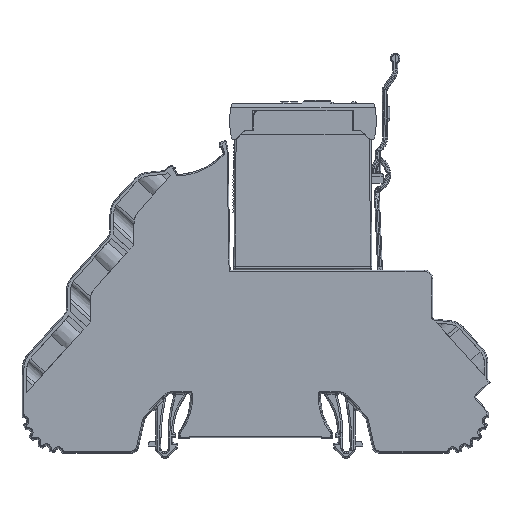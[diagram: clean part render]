
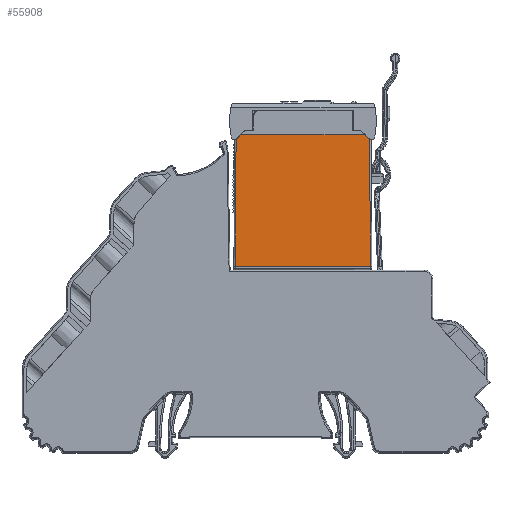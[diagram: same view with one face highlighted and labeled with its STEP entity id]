
A CAD part, left-side view. The second image highlights one B-rep face of the part: STEP entity #55908.
In plain terms, the highlighted planar face has unit normal (-1, 0, 0.006).
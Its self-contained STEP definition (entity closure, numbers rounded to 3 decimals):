
#1791 = EDGE_CURVE ( 'NONE', #119254, #127471, #106595, .T. ) ;
#3710 = CARTESIAN_POINT ( 'NONE',  ( -6.25, 2.803, 38.8 ) ) ;
#4144 = CARTESIAN_POINT ( 'NONE',  ( -6.09, 12.04, 65.295 ) ) ;
#5524 = VECTOR ( 'NONE', #78479, 1000. ) ;
#13148 = EDGE_CURVE ( 'NONE', #89399, #119254, #76153, .T. ) ;
#14494 = EDGE_CURVE ( 'NONE', #25927, #32740, #69327, .T. ) ;
#18274 = CARTESIAN_POINT ( 'NONE',  ( -6.09, -15.832, 65.295 ) ) ;
#22211 = CARTESIAN_POINT ( 'NONE',  ( -6.247, 12.197, 38.8 ) ) ;
#24183 = VECTOR ( 'NONE', #58210, 1000. ) ;
#24737 = VECTOR ( 'NONE', #59366, 1000. ) ;
#25753 = CARTESIAN_POINT ( 'NONE',  ( -6.085, -14.926, 66.2 ) ) ;
#25927 = VERTEX_POINT ( 'NONE', #85387 ) ;
#26107 = FACE_OUTER_BOUND ( 'NONE', #60720, .T. ) ;
#28147 = DIRECTION ( 'NONE',  ( -0.004, 0.707, -0.707 ) ) ;
#32740 = VERTEX_POINT ( 'NONE', #41662 ) ;
#33585 = CARTESIAN_POINT ( 'NONE',  ( -6.193, 12.145, 47.632 ) ) ;
#36079 = ORIENTED_EDGE ( 'NONE', *, *, #46095, .F. ) ;
#37993 = CARTESIAN_POINT ( 'NONE',  ( -6.247, 12.197, 38.8 ) ) ;
#40661 = CARTESIAN_POINT ( 'NONE',  ( -6.154, -1.896, 54.286 ) ) ;
#40972 = ORIENTED_EDGE ( 'NONE', *, *, #14494, .T. ) ;
#41662 = CARTESIAN_POINT ( 'NONE',  ( -6.09, 12.04, 65.295 ) ) ;
#46095 = EDGE_CURVE ( 'NONE', #25927, #118289, #123866, .T. ) ;
#47894 = CARTESIAN_POINT ( 'NONE',  ( -6.085, 11.135, 66.2 ) ) ;
#49819 = ORIENTED_EDGE ( 'NONE', *, *, #118629, .F. ) ;
#55908 = ADVANCED_FACE ( 'NONE', ( #26107 ), #70525, .F. ) ;
#57760 = AXIS2_PLACEMENT_3D ( 'NONE', #40661, #81971, #91234 ) ;
#58210 = DIRECTION ( 'NONE',  ( -0.006, -0.006, -1. ) ) ;
#59366 = DIRECTION ( 'NONE',  ( 0., -1., 0. ) ) ;
#60720 = EDGE_LOOP ( 'NONE', ( #71961, #36079, #40972, #49819, #107385, #100865 ) ) ;
#69327 = LINE ( 'NONE', #47894, #92971 ) ;
#70525 = PLANE ( 'NONE',  #57760 ) ;
#71961 = ORIENTED_EDGE ( 'NONE', *, *, #127607, .T. ) ;
#73093 = LINE ( 'NONE', #18274, #5524 ) ;
#73139 = CARTESIAN_POINT ( 'NONE',  ( -6.247, -15.993, 38.8 ) ) ;
#76153 = LINE ( 'NONE', #108505, #24183 ) ;
#78479 = DIRECTION ( 'NONE',  ( 0.004, 0.707, 0.707 ) ) ;
#81971 = DIRECTION ( 'NONE',  ( 1., 0., -0.006 ) ) ;
#83306 = CARTESIAN_POINT ( 'NONE',  ( -6.25, -6.591, 38.8 ) ) ;
#85387 = CARTESIAN_POINT ( 'NONE',  ( -6.085, 11.135, 66.2 ) ) ;
#89399 = VERTEX_POINT ( 'NONE', #95314 ) ;
#91234 = DIRECTION ( 'NONE',  ( -0.006, 0., -1. ) ) ;
#92971 = VECTOR ( 'NONE', #28147, 1000. ) ;
#95314 = CARTESIAN_POINT ( 'NONE',  ( -6.09, -15.832, 65.295 ) ) ;
#100865 = ORIENTED_EDGE ( 'NONE', *, *, #13148, .F. ) ;
#106595 = B_SPLINE_CURVE_WITH_KNOTS ( 'NONE', 3,
 ( #73139, #83306, #3710, #22211 ),
 .UNSPECIFIED., .F., .F.,
 ( 4, 4 ),
 ( 0., 1. ),
 .UNSPECIFIED. ) ;
#107385 = ORIENTED_EDGE ( 'NONE', *, *, #1791, .F. ) ;
#108505 = CARTESIAN_POINT ( 'NONE',  ( -6.09, -15.832, 65.295 ) ) ;
#111320 = B_SPLINE_CURVE_WITH_KNOTS ( 'NONE', 3,
 ( #124711, #33585, #115490, #4144 ),
 .UNSPECIFIED., .F., .F.,
 ( 4, 4 ),
 ( 0., 1. ),
 .UNSPECIFIED. ) ;
#115490 = CARTESIAN_POINT ( 'NONE',  ( -6.142, 12.093, 56.463 ) ) ;
#118289 = VERTEX_POINT ( 'NONE', #25753 ) ;
#118629 = EDGE_CURVE ( 'NONE', #127471, #32740, #111320, .T. ) ;
#119254 = VERTEX_POINT ( 'NONE', #125388 ) ;
#123866 = LINE ( 'NONE', #130239, #24737 ) ;
#124711 = CARTESIAN_POINT ( 'NONE',  ( -6.247, 12.197, 38.8 ) ) ;
#125388 = CARTESIAN_POINT ( 'NONE',  ( -6.247, -15.993, 38.8 ) ) ;
#127471 = VERTEX_POINT ( 'NONE', #37993 ) ;
#127607 = EDGE_CURVE ( 'NONE', #89399, #118289, #73093, .T. ) ;
#130239 = CARTESIAN_POINT ( 'NONE',  ( -6.085, -1.896, 66.2 ) ) ;
